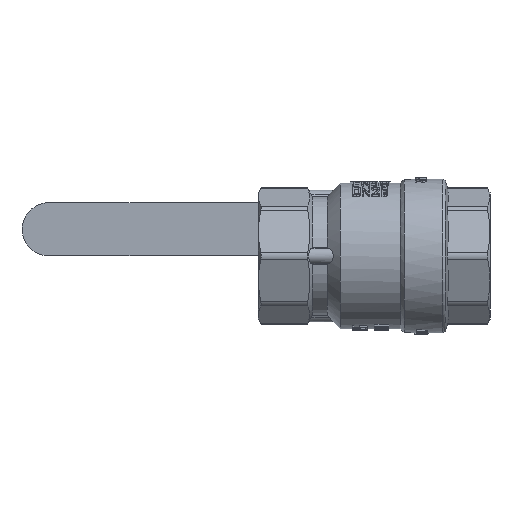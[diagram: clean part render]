
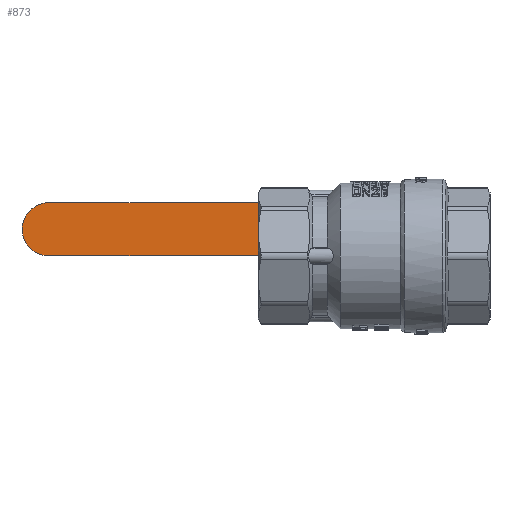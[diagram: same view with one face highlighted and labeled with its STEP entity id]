
A CAD part, front view. The second image highlights one B-rep face of the part: STEP entity #873.
In plain terms, the highlighted planar face has unit normal (0, -1, 0).
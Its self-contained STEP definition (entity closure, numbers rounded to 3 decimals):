
#873=ADVANCED_FACE('',(#6567),#6569,.F.);
#6567=FACE_BOUND('',#6568,.T.);
#6568=EDGE_LOOP('',(#12318,#12319,#12320,#12321));
#6569=PLANE('',#6570);
#6570=AXIS2_PLACEMENT_3D('',#6571,#6572,#6573);
#6571=CARTESIAN_POINT('',(3.899,47.985,0.));
#6572=DIRECTION('',(0.,1.,0.));
#6573=DIRECTION('',(-1.,0.,0.));
#12318=ORIENTED_EDGE('',*,*,#14660,.F.);
#12319=ORIENTED_EDGE('',*,*,#14602,.F.);
#12320=ORIENTED_EDGE('',*,*,#14661,.F.);
#12321=ORIENTED_EDGE('',*,*,#14662,.F.);
#14602=EDGE_CURVE('',#18340,#18341,#18342,.T.);
#14660=EDGE_CURVE('',#18341,#18437,#18438,.T.);
#14661=EDGE_CURVE('',#18439,#18340,#18440,.T.);
#14662=EDGE_CURVE('',#18437,#18439,#18441,.F.);
#18340=VERTEX_POINT('',#43413);
#18341=VERTEX_POINT('',#43414);
#18342=LINE('',#43415,#43416);
#18437=VERTEX_POINT('',#44046);
#18438=LINE('',#44047,#44048);
#18439=VERTEX_POINT('',#44050);
#18440=LINE('',#44051,#44052);
#18441=CIRCLE('',#44054,8.);
#43413=CARTESIAN_POINT('',(-33.213,47.985,16.));
#43414=CARTESIAN_POINT('',(-33.213,47.985,0.));
#43415=CARTESIAN_POINT('',(-33.213,47.985,16.));
#43416=VECTOR('',#43417,1.);
#43417=DIRECTION('',(0.,0.,-1.));
#44046=CARTESIAN_POINT('',(-97.728,47.985,0.));
#44047=CARTESIAN_POINT('',(-33.213,47.985,0.));
#44048=VECTOR('',#44049,1.);
#44049=DIRECTION('',(-1.,0.,0.));
#44050=CARTESIAN_POINT('',(-97.728,47.985,16.));
#44051=CARTESIAN_POINT('',(-97.728,47.985,16.));
#44052=VECTOR('',#44053,1.);
#44053=DIRECTION('',(1.,0.,0.));
#44054=AXIS2_PLACEMENT_3D('',#44055,#44056,#44057);
#44055=CARTESIAN_POINT('',(-97.728,47.985,8.));
#44056=DIRECTION('',(0.,-1.,0.));
#44057=DIRECTION('',(0.,0.,1.));
